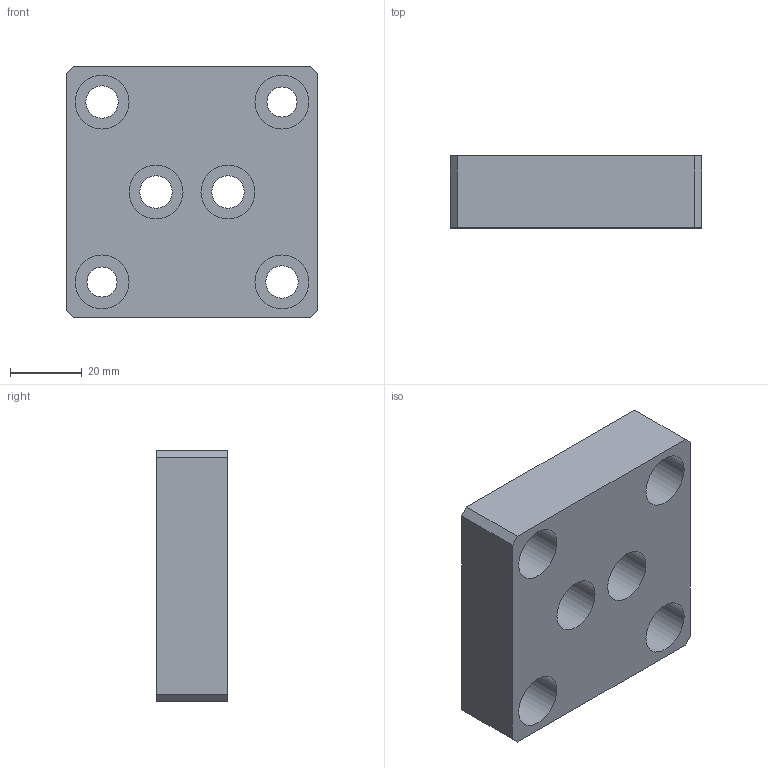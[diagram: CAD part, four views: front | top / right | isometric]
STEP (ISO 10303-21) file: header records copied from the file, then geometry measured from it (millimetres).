
FILE_DESCRIPTION(/* description */ (''),/* implementation_level */ '2;1');
FILE_NAME(/* name */ 'C:\Users\Jefferson\Desktop\Biblioteca Pro Nitro 2024\Flanges\PNB-56-XXX\PNB-56-045.stp',/* time_stamp */ '2024-01-29T14:07:59-03:00',/* author */ ('Jefferson'),/* organization */ (''),/* preprocessor_version */ 'ST-DEVELOPER v18.1',/* originating_system */ 'Autodesk Inventor 2021',/* authorisation */ '');
FILE_SCHEMA (('AUTOMOTIVE_DESIGN { 1 0 10303 214 3 1 1 }'));
Length unit declared in the file: millimetre
Products named in the file (1): PNB-56-045
Bounding box: 70 x 20 x 70 mm (x, y, z)
Volume: 81743.9 mm3; surface area: 19369.8 mm2
Topology: 1 solids, 1 shells, 189 faces, 507 edges, 342 vertices
Faces by surface type: plane 98, bspline 79, cylinder 12
Full cylindrical faces by diameter (mm): 8.376 x2, 9 x4, 15 x6
Entity records: 6372 total; most frequent: CARTESIAN_POINT 2066, ORIENTED_EDGE 1014, DIRECTION 607, EDGE_CURVE 507, VERTEX_POINT 342, LINE 313, VECTOR 313, EDGE_LOOP 223
